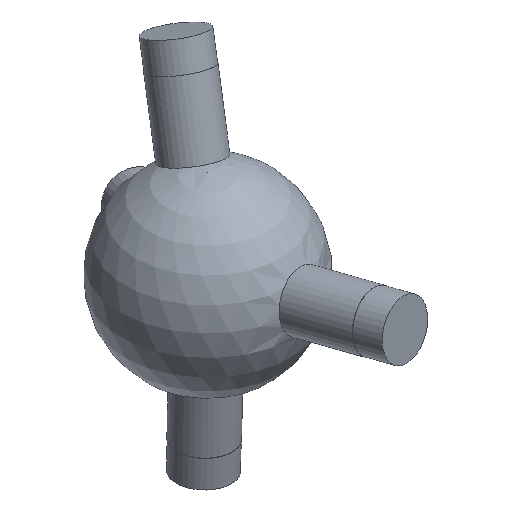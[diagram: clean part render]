
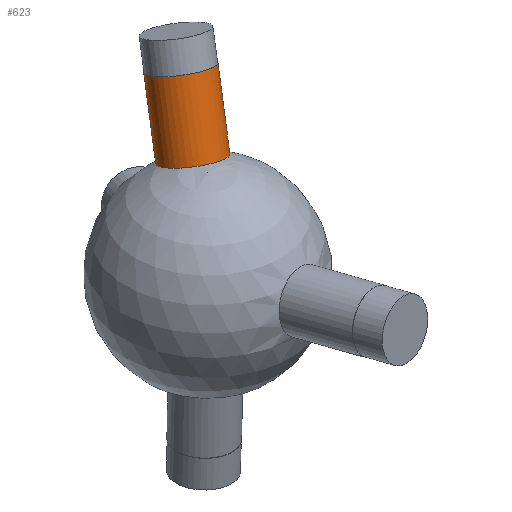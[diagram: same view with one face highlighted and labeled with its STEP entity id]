
A CAD part, isometric view. The second image highlights one B-rep face of the part: STEP entity #623.
In plain terms, the highlighted cylindrical face has radius 6 mm (diameter 12 mm), a full revolution.
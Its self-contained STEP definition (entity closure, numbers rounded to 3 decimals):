
#33 = SPHERICAL_SURFACE('',#34,20.);
#34 = AXIS2_PLACEMENT_3D('',#35,#36,#37);
#35 = CARTESIAN_POINT('',(0.,0.,0.));
#36 = DIRECTION('',(0.,0.,1.));
#37 = DIRECTION('',(1.,0.,-0.));
#332 = EDGE_CURVE('',#333,#333,#335,.T.);
#333 = VERTEX_POINT('',#334);
#334 = CARTESIAN_POINT('',(3.491,12.497,
    15.22));
#335 = SURFACE_CURVE('',#336,(#341,#445),.PCURVE_S1.);
#336 = CIRCLE('',#337,6.);
#337 = AXIS2_PLACEMENT_3D('',#338,#339,#340);
#338 = CARTESIAN_POINT('',(3.491,6.92,17.433
    ));
#339 = DIRECTION('',(0.183,0.363,0.914));
#340 = DIRECTION('',(0.,-0.929,0.369)
  );
#341 = PCURVE('',#33,#342);
#342 = DEFINITIONAL_REPRESENTATION('',(#343),#444);
#343 = B_SPLINE_CURVE_WITH_KNOTS('',8,(#344,#345,#346,#347,#348,#349,
    #350,#351,#352,#353,#354,#355,#356,#357,#358,#359,#360,#361,#362,
    #363,#364,#365,#366,#367,#368,#369,#370,#371,#372,#373,#374,#375,
    #376,#377,#378,#379,#380,#381,#382,#383,#384,#385,#386,#387,#388,
    #389,#390,#391,#392,#393,#394,#395,#396,#397,#398,#399,#400,#401,
    #402,#403,#404,#405,#406,#407,#408,#409,#410,#411,#412,#413,#414,
    #415,#416,#417,#418,#419,#420,#421,#422,#423,#424,#425,#426,#427,
    #428,#429,#430,#431,#432,#433,#434,#435,#436,#437,#438,#439,#440,
    #441,#442,#443),.UNSPECIFIED.,.T.,.F.,(9,7,7,7,7,7,7,7,7,7,7,7,7,7,9
    ),(3.142,3.927,4.614,5.216,
    5.479,5.602,5.721,5.837,
    5.949,6.166,6.37,6.752,
    7.42,8.422,9.425),.UNSPECIFIED.);
#344 = CARTESIAN_POINT('',(1.298,0.865));
#345 = CARTESIAN_POINT('',(1.342,0.873));
#346 = CARTESIAN_POINT('',(1.386,0.882));
#347 = CARTESIAN_POINT('',(1.429,0.894));
#348 = CARTESIAN_POINT('',(1.471,0.907));
#349 = CARTESIAN_POINT('',(1.513,0.923));
#350 = CARTESIAN_POINT('',(1.553,0.94));
#351 = CARTESIAN_POINT('',(1.593,0.958));
#352 = CARTESIAN_POINT('',(1.665,0.996));
#353 = CARTESIAN_POINT('',(1.698,1.015));
#354 = CARTESIAN_POINT('',(1.73,1.034));
#355 = CARTESIAN_POINT('',(1.76,1.055));
#356 = CARTESIAN_POINT('',(1.789,1.077));
#357 = CARTESIAN_POINT('',(1.817,1.1));
#358 = CARTESIAN_POINT('',(1.842,1.123));
#359 = CARTESIAN_POINT('',(1.884,1.168));
#360 = CARTESIAN_POINT('',(1.902,1.19));
#361 = CARTESIAN_POINT('',(1.917,1.212));
#362 = CARTESIAN_POINT('',(1.928,1.234));
#363 = CARTESIAN_POINT('',(1.936,1.257));
#364 = CARTESIAN_POINT('',(1.939,1.279));
#365 = CARTESIAN_POINT('',(1.936,1.302));
#366 = CARTESIAN_POINT('',(1.915,1.334));
#367 = CARTESIAN_POINT('',(1.907,1.344));
#368 = CARTESIAN_POINT('',(1.896,1.353));
#369 = CARTESIAN_POINT('',(1.883,1.363));
#370 = CARTESIAN_POINT('',(1.867,1.372));
#371 = CARTESIAN_POINT('',(1.847,1.381));
#372 = CARTESIAN_POINT('',(1.823,1.39));
#373 = CARTESIAN_POINT('',(1.78,1.402));
#374 = CARTESIAN_POINT('',(1.765,1.406));
#375 = CARTESIAN_POINT('',(1.75,1.41));
#376 = CARTESIAN_POINT('',(1.732,1.414));
#377 = CARTESIAN_POINT('',(1.714,1.418));
#378 = CARTESIAN_POINT('',(1.694,1.421));
#379 = CARTESIAN_POINT('',(1.672,1.424));
#380 = CARTESIAN_POINT('',(1.627,1.431));
#381 = CARTESIAN_POINT('',(1.603,1.434));
#382 = CARTESIAN_POINT('',(1.578,1.437));
#383 = CARTESIAN_POINT('',(1.551,1.439));
#384 = CARTESIAN_POINT('',(1.522,1.442));
#385 = CARTESIAN_POINT('',(1.492,1.444));
#386 = CARTESIAN_POINT('',(1.46,1.446));
#387 = CARTESIAN_POINT('',(1.395,1.45));
#388 = CARTESIAN_POINT('',(1.362,1.452));
#389 = CARTESIAN_POINT('',(1.327,1.453));
#390 = CARTESIAN_POINT('',(1.291,1.455));
#391 = CARTESIAN_POINT('',(1.254,1.456));
#392 = CARTESIAN_POINT('',(1.217,1.456));
#393 = CARTESIAN_POINT('',(1.179,1.457));
#394 = CARTESIAN_POINT('',(1.104,1.457));
#395 = CARTESIAN_POINT('',(1.067,1.457));
#396 = CARTESIAN_POINT('',(1.03,1.457));
#397 = CARTESIAN_POINT('',(0.993,1.456));
#398 = CARTESIAN_POINT('',(0.956,1.456));
#399 = CARTESIAN_POINT('',(0.921,1.455));
#400 = CARTESIAN_POINT('',(0.886,1.453));
#401 = CARTESIAN_POINT('',(0.788,1.449));
#402 = CARTESIAN_POINT('',(0.728,1.446));
#403 = CARTESIAN_POINT('',(0.672,1.442));
#404 = CARTESIAN_POINT('',(0.622,1.437));
#405 = CARTESIAN_POINT('',(0.577,1.431));
#406 = CARTESIAN_POINT('',(0.537,1.426));
#407 = CARTESIAN_POINT('',(0.502,1.419));
#408 = CARTESIAN_POINT('',(0.442,1.407));
#409 = CARTESIAN_POINT('',(0.417,1.4));
#410 = CARTESIAN_POINT('',(0.394,1.394));
#411 = CARTESIAN_POINT('',(0.375,1.387));
#412 = CARTESIAN_POINT('',(0.358,1.38));
#413 = CARTESIAN_POINT('',(0.344,1.373));
#414 = CARTESIAN_POINT('',(0.331,1.366));
#415 = CARTESIAN_POINT('',(0.301,1.345));
#416 = CARTESIAN_POINT('',(0.287,1.331));
#417 = CARTESIAN_POINT('',(0.278,1.316));
#418 = CARTESIAN_POINT('',(0.273,1.302));
#419 = CARTESIAN_POINT('',(0.271,1.288));
#420 = CARTESIAN_POINT('',(0.271,1.273));
#421 = CARTESIAN_POINT('',(0.274,1.259));
#422 = CARTESIAN_POINT('',(0.287,1.22));
#423 = CARTESIAN_POINT('',(0.301,1.195));
#424 = CARTESIAN_POINT('',(0.319,1.171));
#425 = CARTESIAN_POINT('',(0.34,1.147));
#426 = CARTESIAN_POINT('',(0.363,1.124));
#427 = CARTESIAN_POINT('',(0.388,1.102));
#428 = CARTESIAN_POINT('',(0.416,1.08));
#429 = CARTESIAN_POINT('',(0.487,1.028));
#430 = CARTESIAN_POINT('',(0.533,0.999));
#431 = CARTESIAN_POINT('',(0.582,0.972));
#432 = CARTESIAN_POINT('',(0.632,0.947));
#433 = CARTESIAN_POINT('',(0.684,0.925));
#434 = CARTESIAN_POINT('',(0.738,0.906));
#435 = CARTESIAN_POINT('',(0.792,0.89));
#436 = CARTESIAN_POINT('',(0.903,0.865));
#437 = CARTESIAN_POINT('',(0.959,0.855));
#438 = CARTESIAN_POINT('',(1.015,0.848));
#439 = CARTESIAN_POINT('',(1.072,0.845));
#440 = CARTESIAN_POINT('',(1.129,0.845));
#441 = CARTESIAN_POINT('',(1.186,0.848));
#442 = CARTESIAN_POINT('',(1.242,0.855));
#443 = CARTESIAN_POINT('',(1.298,0.865));
#444 = ( GEOMETRIC_REPRESENTATION_CONTEXT(2) 
PARAMETRIC_REPRESENTATION_CONTEXT() REPRESENTATION_CONTEXT('2D SPACE',''
  ) );
#445 = PCURVE('',#446,#451);
#446 = CYLINDRICAL_SURFACE('',#447,6.);
#447 = AXIS2_PLACEMENT_3D('',#448,#449,#450);
#448 = CARTESIAN_POINT('',(0.,0.,0.));
#449 = DIRECTION('',(0.183,0.363,0.914));
#450 = DIRECTION('',(0.,0.929,-0.369));
#451 = DEFINITIONAL_REPRESENTATION('',(#452),#456);
#452 = LINE('',#453,#454);
#453 = CARTESIAN_POINT('',(-3.142,19.079));
#454 = VECTOR('',#455,1.);
#455 = DIRECTION('',(1.,0.));
#456 = ( GEOMETRIC_REPRESENTATION_CONTEXT(2) 
PARAMETRIC_REPRESENTATION_CONTEXT() REPRESENTATION_CONTEXT('2D SPACE',''
  ) );
#623 = ADVANCED_FACE('',(#624),#446,.T.);
#624 = FACE_BOUND('',#625,.T.);
#625 = EDGE_LOOP('',(#626,#649,#676,#677));
#626 = ORIENTED_EDGE('',*,*,#627,.T.);
#627 = EDGE_CURVE('',#333,#628,#630,.T.);
#628 = VERTEX_POINT('',#629);
#629 = CARTESIAN_POINT('',(6.261,17.987,
    29.05));
#630 = SEAM_CURVE('',#631,(#635,#642),.PCURVE_S1.);
#631 = LINE('',#632,#633);
#632 = CARTESIAN_POINT('',(0.,5.577,
    -2.214));
#633 = VECTOR('',#634,1.);
#634 = DIRECTION('',(0.183,0.363,0.914));
#635 = PCURVE('',#446,#636);
#636 = DEFINITIONAL_REPRESENTATION('',(#637),#641);
#637 = LINE('',#638,#639);
#638 = CARTESIAN_POINT('',(6.283,-0.));
#639 = VECTOR('',#640,1.);
#640 = DIRECTION('',(0.,1.));
#641 = ( GEOMETRIC_REPRESENTATION_CONTEXT(2) 
PARAMETRIC_REPRESENTATION_CONTEXT() REPRESENTATION_CONTEXT('2D SPACE',''
  ) );
#642 = PCURVE('',#446,#643);
#643 = DEFINITIONAL_REPRESENTATION('',(#644),#648);
#644 = LINE('',#645,#646);
#645 = CARTESIAN_POINT('',(0.,-0.));
#646 = VECTOR('',#647,1.);
#647 = DIRECTION('',(0.,1.));
#648 = ( GEOMETRIC_REPRESENTATION_CONTEXT(2) 
PARAMETRIC_REPRESENTATION_CONTEXT() REPRESENTATION_CONTEXT('2D SPACE',''
  ) );
#649 = ORIENTED_EDGE('',*,*,#650,.F.);
#650 = EDGE_CURVE('',#628,#628,#651,.T.);
#651 = SURFACE_CURVE('',#652,(#657,#664),.PCURVE_S1.);
#652 = CIRCLE('',#653,6.);
#653 = AXIS2_PLACEMENT_3D('',#654,#655,#656);
#654 = CARTESIAN_POINT('',(6.261,12.41,31.264)
  );
#655 = DIRECTION('',(0.183,0.363,0.914));
#656 = DIRECTION('',(0.,0.929,-0.369)
  );
#657 = PCURVE('',#446,#658);
#658 = DEFINITIONAL_REPRESENTATION('',(#659),#663);
#659 = LINE('',#660,#661);
#660 = CARTESIAN_POINT('',(0.,34.215));
#661 = VECTOR('',#662,1.);
#662 = DIRECTION('',(1.,0.));
#663 = ( GEOMETRIC_REPRESENTATION_CONTEXT(2) 
PARAMETRIC_REPRESENTATION_CONTEXT() REPRESENTATION_CONTEXT('2D SPACE',''
  ) );
#664 = PCURVE('',#665,#670);
#665 = PLANE('',#666);
#666 = AXIS2_PLACEMENT_3D('',#667,#668,#669);
#667 = CARTESIAN_POINT('',(6.261,12.41,31.264)
  );
#668 = DIRECTION('',(0.183,0.363,0.914));
#669 = DIRECTION('',(0.,0.929,-0.369));
#670 = DEFINITIONAL_REPRESENTATION('',(#671),#675);
#671 = CIRCLE('',#672,6.);
#672 = AXIS2_PLACEMENT_2D('',#673,#674);
#673 = CARTESIAN_POINT('',(0.,0.));
#674 = DIRECTION('',(1.,0.));
#675 = ( GEOMETRIC_REPRESENTATION_CONTEXT(2) 
PARAMETRIC_REPRESENTATION_CONTEXT() REPRESENTATION_CONTEXT('2D SPACE',''
  ) );
#676 = ORIENTED_EDGE('',*,*,#627,.F.);
#677 = ORIENTED_EDGE('',*,*,#332,.T.);
